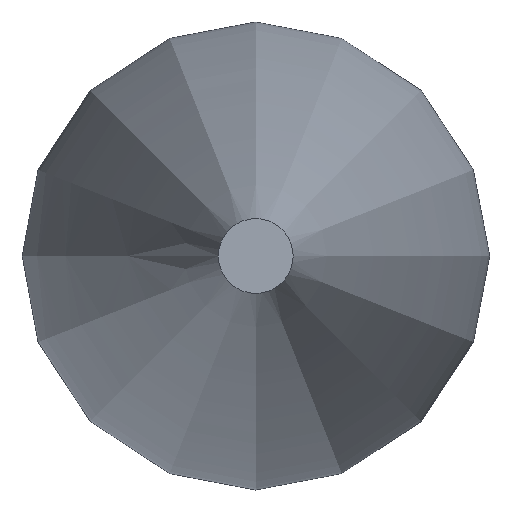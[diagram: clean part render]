
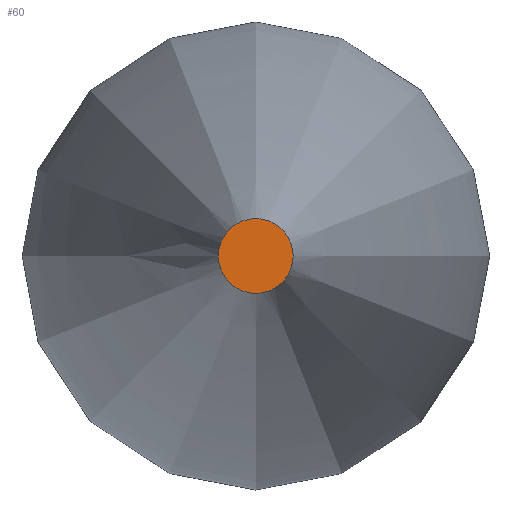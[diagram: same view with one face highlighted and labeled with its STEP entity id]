
A CAD part, left-side view. The second image highlights one B-rep face of the part: STEP entity #60.
In plain terms, the highlighted planar face has unit normal (-1, 0, 0).
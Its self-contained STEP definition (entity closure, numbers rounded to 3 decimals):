
#44=CARTESIAN_POINT('',(350.0,66.5,0.0));
#45=DIRECTION('',(-1.0,0.0,0.0));
#46=DIRECTION('',(0.0,0.0,1.0));
#47=AXIS2_PLACEMENT_3D('',#44,#45,#46);
#48=PLANE('',#47);
#49=CARTESIAN_POINT('',(350.0,133.0,0.0));
#50=VERTEX_POINT('',#49);
#51=CARTESIAN_POINT('',(350.0,0.0,0.0));
#52=DIRECTION('',(1.0,0.0,0.0));
#53=DIRECTION('',(0.0,1.0,0.0));
#54=AXIS2_PLACEMENT_3D('',#51,#52,#53);
#55=CIRCLE('',#54,133.0);
#56=EDGE_CURVE('',#50,#50,#55,.T.);
#57=ORIENTED_EDGE('',*,*,#56,.F.);
#58=EDGE_LOOP('',(#57));
#59=FACE_OUTER_BOUND('',#58,.T.);
#60=ADVANCED_FACE('',(#59),#48,.T.);
